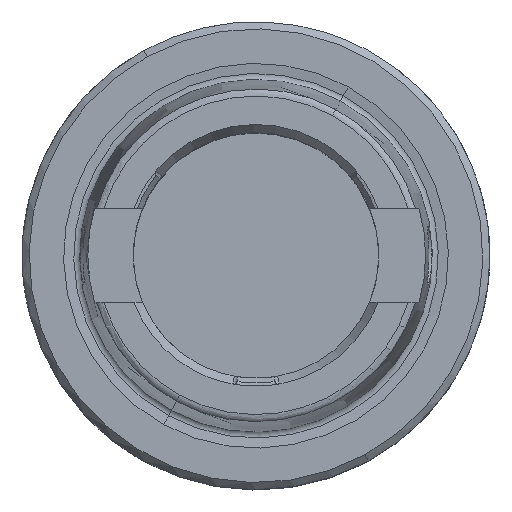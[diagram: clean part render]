
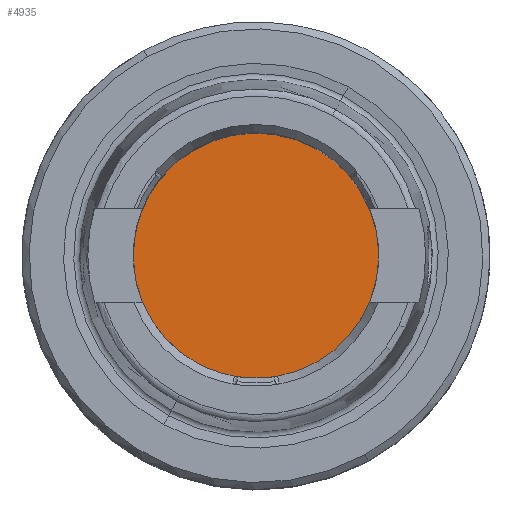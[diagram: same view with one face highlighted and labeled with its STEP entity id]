
A CAD part, top view. The second image highlights one B-rep face of the part: STEP entity #4935.
In plain terms, the highlighted planar face has unit normal (0, 0, 1).
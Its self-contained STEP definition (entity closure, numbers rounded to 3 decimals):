
#4356=AXIS2_PLACEMENT_3D('Circle Axis2P3D',#4354,#4355,$) ;
#4627=AXIS2_PLACEMENT_3D('Circle Axis2P3D',#4625,#4626,$) ;
#4929=AXIS2_PLACEMENT_3D('Plane Axis2P3D',#4926,#4927,#4928) ;
#4351=CARTESIAN_POINT('Vertex',(5.034,9.215,-8.)) ;
#4354=CARTESIAN_POINT('Axis2P3D Location',(0.,0.,-8.)) ;
#4358=CARTESIAN_POINT('Vertex',(-5.034,-9.215,-8.)) ;
#4625=CARTESIAN_POINT('Axis2P3D Location',(0.,0.,-8.)) ;
#4926=CARTESIAN_POINT('Axis2P3D Location',(0.,-10.5,-8.)) ;
#4355=DIRECTION('Axis2P3D Direction',(-0.,0.,-1.)) ;
#4626=DIRECTION('Axis2P3D Direction',(-0.,0.,-1.)) ;
#4927=DIRECTION('Axis2P3D Direction',(0.,0.,-1.)) ;
#4928=DIRECTION('Axis2P3D XDirection',(-1.,0.,0.)) ;
#4932=ORIENTED_EDGE('',*,*,#4360,.F.) ;
#4933=ORIENTED_EDGE('',*,*,#4629,.F.) ;
#4935=ADVANCED_FACE('NOCUT',(#4934),#4930,.F.) ;
#4357=CIRCLE('generated circle',#4356,10.5) ;
#4628=CIRCLE('generated circle',#4627,10.5) ;
#4360=EDGE_CURVE('',#4352,#4359,#4357,.T.) ;
#4629=EDGE_CURVE('',#4359,#4352,#4628,.T.) ;
#4931=EDGE_LOOP('',(#4932,#4933)) ;
#4934=FACE_OUTER_BOUND('',#4931,.T.) ;
#4930=PLANE('',#4929) ;
#4352=VERTEX_POINT('',#4351) ;
#4359=VERTEX_POINT('',#4358) ;
